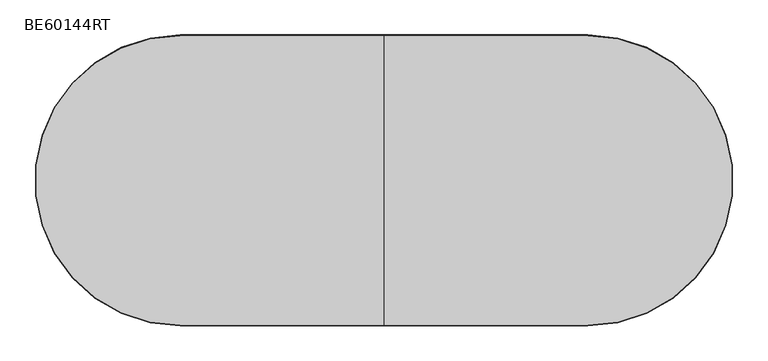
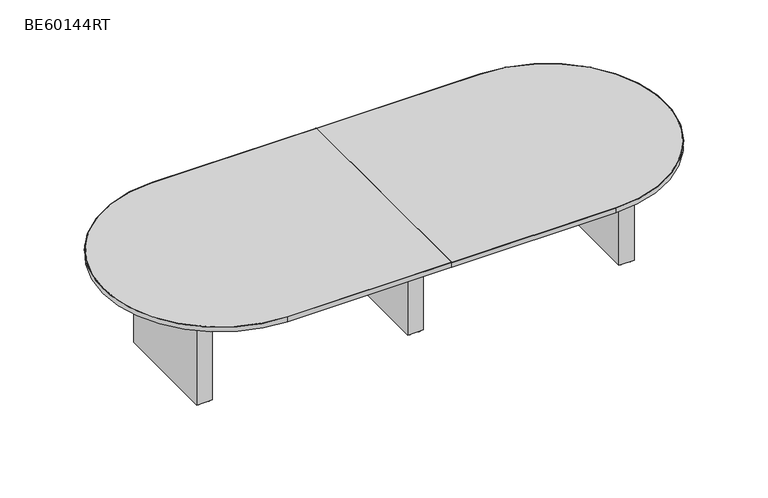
"""IFC4 building model written with IfcOpenShell, lengths in millimetres: furniture geometry, ERG-Beta-Conference_Table-Racetrack : BE60144RT."""

import ifcopenshell
import ifcopenshell.guid

model = None  # the IFC model being written
_history = None  # IfcOwnerHistory: only IFC2X3 demands one
_inside = {}  # id of a spatial element -> (the spatial element, [elements in it])
_under = {}  # id of a project, library or spatial element -> (it, [spatial elements below it])
_declared = {}  # id of a project -> (the project, [libraries it declares])
_typed = {}  # id of a type object -> (the type object, [elements of that type])
_made_of = {}  # id of a material, layer set ... -> (it, [elements and type objects made of it])


def new_model(schema):
    """Start an empty IFC model of exactly this schema.

    Asked for "IFC4X3", IfcOpenShell would pick the latest addendum, in which some entities
    have other attributes; the version numbers below select the first issue.
    IFC2X3 requires an IfcOwnerHistory on every rooted entity: one is made here for all.
    """
    global model, _history
    if schema == "IFC4X3":
        model = ifcopenshell.file(schema_version=(4, 3, 0, 0))
    else:
        model = ifcopenshell.file(schema=schema)
    _inside.clear()
    _under.clear()
    _declared.clear()
    _typed.clear()
    _made_of.clear()
    _history = None
    if model.schema == "IFC2X3":
        org = make("IfcOrganization", Name="unknown")
        user = make(
            "IfcPersonAndOrganization",
            ThePerson=make("IfcPerson", FamilyName="unknown"),
            TheOrganization=org,
        )
        app = make(
            "IfcApplication",
            ApplicationDeveloper=org,
            Version="unknown",
            ApplicationFullName="unknown",
            ApplicationIdentifier="unknown",
        )
        _history = make(
            "IfcOwnerHistory",
            OwningUser=user,
            OwningApplication=app,
            ChangeAction="ADDED",
            CreationDate=0,
        )
    return model


def make(cls, **values):
    """One entity of the class cls with the attributes given. An attribute that is None is left unset."""
    return model.create_entity(
        cls, **{name: value for name, value in values.items() if value is not None}
    )


def rooted(cls, **values):
    """An entity with a GlobalId (a new one), such as an element, a storey or a relation."""
    return make(cls, GlobalId=ifcopenshell.guid.new(), OwnerHistory=_history, **values)


def si_unit(unit_type, name, prefix=None):
    """IfcSIUnit, for example si_unit("LENGTHUNIT", "METRE", prefix="MILLI")."""
    return make("IfcSIUnit", UnitType=unit_type, Prefix=prefix, Name=name)


def assignment(units):
    """IfcUnitAssignment: the units of a project."""
    return None if units is None else make("IfcUnitAssignment", Units=units)


def point(xyz):
    """IfcCartesianPoint."""
    return None if xyz is None else make("IfcCartesianPoint", Coordinates=xyz)


def direction(xyz):
    """IfcDirection."""
    return None if xyz is None else make("IfcDirection", DirectionRatios=xyz)


def frame(location, z_axis=None, x_axis=None):
    """IfcAxis2Placement3D, a coordinate frame: its origin and axes. An axis left out is left unset."""
    return make(
        "IfcAxis2Placement3D",
        Location=point(location),
        Axis=direction(z_axis),
        RefDirection=direction(x_axis),
    )


def frame_2d(location, x_axis=None):
    """IfcAxis2Placement2D, a coordinate frame in the plane: its origin and x axis."""
    return make(
        "IfcAxis2Placement2D", Location=point(location), RefDirection=direction(x_axis)
    )


def origin():
    """The frame at (0, 0, 0) with its axes left unset."""
    return frame((0.0, 0.0, 0.0))


def origin_with_axes():
    """The frame at (0, 0, 0) with the z axis (0, 0, 1) and the x axis (1, 0, 0) written out."""
    return frame((0.0, 0.0, 0.0), z_axis=(0.0, 0.0, 1.0), x_axis=(1.0, 0.0, 0.0))


def place(relative_to, where):
    """IfcLocalPlacement: puts the frame where relative to a parent placement (None: the world)."""
    return make(
        "IfcLocalPlacement", PlacementRelTo=relative_to, RelativePlacement=where
    )


def context(
    kind, dimensions, precision=None, world=None, true_north=None, identifier=None
):
    """IfcGeometricRepresentationContext, for example the 3D "Model" context."""
    return make(
        "IfcGeometricRepresentationContext",
        ContextIdentifier=identifier,
        ContextType=kind,
        CoordinateSpaceDimension=dimensions,
        Precision=precision,
        WorldCoordinateSystem=world,
        TrueNorth=true_north,
    )


def project(units=None, contexts=None):
    """IfcProject with its units and contexts."""
    return rooted(
        "IfcProject",
        Name="project",
        RepresentationContexts=contexts,
        UnitsInContext=assignment(units),
    )


def spatial(cls, under=None, at=None, **own):
    """A site, building, storey or space (cls), placed at a placement, below another one or the project."""
    s = rooted(cls, ObjectPlacement=at, **own)
    if under is not None:
        _under.setdefault(under.id(), (under, []))[1].append(s)
    return s


def polyline(points):
    """IfcPolyline through the points."""
    return make("IfcPolyline", Points=[point(p) for p in points])


def circle_curve(where, radius):
    """IfcCircle in the frame where."""
    return make("IfcCircle", Position=where, Radius=radius)


def trimmed(basis, trim1, trim2, sense, master):
    """IfcTrimmedCurve: the piece of a basis curve between two trims."""
    return make(
        "IfcTrimmedCurve",
        BasisCurve=basis,
        Trim1=trim1,
        Trim2=trim2,
        SenseAgreement=sense,
        MasterRepresentation=master,
    )


def segment(curve, same_sense, transition):
    """IfcCompositeCurveSegment."""
    return make(
        "IfcCompositeCurveSegment",
        Transition=transition,
        SameSense=same_sense,
        ParentCurve=curve,
    )


def composite_curve(segments, self_intersect=None):
    """IfcCompositeCurve: segments joined end to end."""
    return make("IfcCompositeCurve", Segments=segments, SelfIntersect=self_intersect)


def outline(outer, holes=None, kind="AREA"):
    """IfcArbitraryClosedProfileDef: a profile drawn as a closed curve; with holes, ...WithVoids."""
    if holes is None:
        return make("IfcArbitraryClosedProfileDef", ProfileType=kind, OuterCurve=outer)
    return make(
        "IfcArbitraryProfileDefWithVoids",
        ProfileType=kind,
        OuterCurve=outer,
        InnerCurves=holes,
    )


def extrude(swept, where, along, depth):
    """IfcExtrudedAreaSolid: the profile swept, set in the frame where, extruded along a direction by depth."""
    return make(
        "IfcExtrudedAreaSolid",
        SweptArea=swept,
        Position=where,
        ExtrudedDirection=direction(along),
        Depth=depth,
    )


def shape(context_of_items, identifier, shape_type, items):
    """IfcShapeRepresentation: the items that make up one representation, for example the "Body"."""
    return make(
        "IfcShapeRepresentation",
        ContextOfItems=context_of_items,
        RepresentationIdentifier=identifier,
        RepresentationType=shape_type,
        Items=items,
    )


def source(mapping_origin, context_of_items, identifier, shape_type, items):
    """IfcRepresentationMap: a shape defined once, which mapped items show again and again."""
    return make(
        "IfcRepresentationMap",
        MappingOrigin=mapping_origin,
        MappedRepresentation=shape(context_of_items, identifier, shape_type, items),
    )


def transform(
    local_origin,
    x_axis=None,
    y_axis=None,
    z_axis=None,
    scale=None,
    scale2=None,
    scale3=None,
    uniform=True,
):
    """IfcCartesianTransformationOperator3D, or its non-uniform kind. x_axis, y_axis, z_axis: its Axis1, 2, 3."""
    if uniform:
        return make(
            "IfcCartesianTransformationOperator3D",
            Axis1=direction(x_axis),
            Axis2=direction(y_axis),
            LocalOrigin=point(local_origin),
            Scale=scale,
            Axis3=direction(z_axis),
        )
    return make(
        "IfcCartesianTransformationOperator3DnonUniform",
        Axis1=direction(x_axis),
        Axis2=direction(y_axis),
        LocalOrigin=point(local_origin),
        Scale=scale,
        Axis3=direction(z_axis),
        Scale2=scale2,
        Scale3=scale3,
    )


def mapped(mapping_source, mapping_target):
    """IfcMappedItem: shows the shape of a source again, moved by a transform."""
    return make(
        "IfcMappedItem", MappingSource=mapping_source, MappingTarget=mapping_target
    )


def made_of(thing, what):
    """Note that an element or type object is made of a material, layer set ...; save() writes the relation."""
    if what is not None:
        _made_of.setdefault(what.id(), (what, []))[1].append(thing)
    return thing


def element(
    cls,
    number,
    at=None,
    inside=None,
    cuts=None,
    type_object=None,
    material=None,
    context=None,
    identifier="Body",
    shape_type=None,
    held_by="IfcProductDefinitionShape",
    body=None,
    shapes=None,
    **own,
):
    """One element of the class cls, such as IfcWall. Its Tag is "e" and its number.

    at: its placement. inside: the storey or other place that contains it. cuts: it is an
    opening in that element (IfcRelVoidsElement). A single representation is given by context,
    identifier, shape_type and body (its items); several are given by shapes. held_by: the class
    of the entity that holds the representations. save() writes the other relations.
    """
    e = rooted(cls, Tag="e%d" % number, ObjectPlacement=at, **own)
    if body is not None:
        shapes = [shape(context, identifier, shape_type, body)]
    if shapes is not None:
        e.Representation = make(held_by, Representations=shapes)
    if inside is not None:
        _inside.setdefault(inside.id(), (inside, []))[1].append(e)
    if cuts is not None:
        rooted(
            "IfcRelVoidsElement", RelatingBuildingElement=cuts, RelatedOpeningElement=e
        )
    if type_object is not None:
        _typed.setdefault(type_object.id(), (type_object, []))[1].append(e)
    return made_of(e, material)


def aggregate(whole, parts):
    """IfcRelAggregates: a whole, such as a stair, and the parts it consists of."""
    return rooted("IfcRelAggregates", RelatingObject=whole, RelatedObjects=parts)


def save(model, path):
    """Write the relations noted so far, then the file.

    IfcRelAggregates (storeys below a building ...), IfcRelContainedInSpatialStructure (elements
    in a storey), IfcRelDefinesByType, IfcRelAssociatesMaterial and IfcRelDeclares: one each for
    every whole, place, type object, material and project.
    """
    for whole, parts in _under.values():
        aggregate(whole, parts)
    for where, things in _inside.values():
        rooted(
            "IfcRelContainedInSpatialStructure",
            RelatedElements=things,
            RelatingStructure=where,
        )
    for kind, things in _typed.values():
        rooted("IfcRelDefinesByType", RelatedObjects=things, RelatingType=kind)
    for what, things in _made_of.values():
        rooted("IfcRelAssociatesMaterial", RelatedObjects=things, RelatingMaterial=what)
    for by, libraries in _declared.values():
        rooted("IfcRelDeclares", RelatingContext=by, RelatedDefinitions=libraries)
    model.write(path)


def be60144rt_28809bae(model_context):
    return source(origin(), model_context, "Body", "SweptSolid", [
        extrude(outline(composite_curve([segment(trimmed(circle_curve(frame_2d((511.175, 390.276527)), 9.525), [point((501.65, 390.276527))], [point((520.7, 390.276527))], False, "CARTESIAN"), True, "CONTINUOUS"), segment(trimmed(circle_curve(frame_2d((511.175, 390.276527)), 9.525), [point((520.7, 390.276527))], [point((501.65, 390.276527))], False, "CARTESIAN"), True, "CONTINUOUS")], self_intersect=False)), origin_with_axes(), (0.0, 0.0, 1.0), 9.525),
        extrude(outline(composite_curve([segment(trimmed(circle_curve(frame_2d((574.675, 390.276527)), 9.525), [point((565.15, 390.276527))], [point((584.2, 390.276527))], False, "CARTESIAN"), True, "CONTINUOUS"), segment(trimmed(circle_curve(frame_2d((574.675, 390.276527)), 9.525), [point((584.2, 390.276527))], [point((565.15, 390.276527))], False, "CARTESIAN"), True, "CONTINUOUS")], self_intersect=False)), origin_with_axes(), (0.0, 0.0, 1.0), 9.525),
        extrude(outline(composite_curve([segment(trimmed(circle_curve(frame_2d((511.175, -282.823473)), 9.525), [point((501.65, -282.823473))], [point((520.7, -282.823473))], False, "CARTESIAN"), True, "CONTINUOUS"), segment(trimmed(circle_curve(frame_2d((511.175, -282.823473)), 9.525), [point((520.7, -282.823473))], [point((501.65, -282.823473))], False, "CARTESIAN"), True, "CONTINUOUS")], self_intersect=False)), origin_with_axes(), (0.0, 0.0, 1.0), 9.525),
        extrude(outline(composite_curve([segment(trimmed(circle_curve(frame_2d((574.675, -282.823473)), 9.525), [point((565.15, -282.823473))], [point((584.2, -282.823473))], False, "CARTESIAN"), True, "CONTINUOUS"), segment(trimmed(circle_curve(frame_2d((574.675, -282.823473)), 9.525), [point((584.2, -282.823473))], [point((565.15, -282.823473))], False, "CARTESIAN"), True, "CONTINUOUS")], self_intersect=False)), origin_with_axes(), (0.0, 0.0, 1.0), 9.525),
        extrude(outline(polyline([(593.725, 409.326527), (593.725, -301.873473), (492.125, -301.873473), (492.125, 409.326527), (593.725, 409.326527)])), frame((0.0, 0.0, 9.525), z_axis=(0.0, 0.0, 1.0), x_axis=(1.0, 0.0, 0.0)), (0.0, 0.0, 1.0), 695.3249758),
        extrude(outline(composite_curve([segment(trimmed(circle_curve(frame_2d((1882.775, 390.276527)), 9.525), [point((1873.25, 390.276527))], [point((1892.3, 390.276527))], False, "CARTESIAN"), True, "CONTINUOUS"), segment(trimmed(circle_curve(frame_2d((1882.775, 390.276527)), 9.525), [point((1892.3, 390.276527))], [point((1873.25, 390.276527))], False, "CARTESIAN"), True, "CONTINUOUS")], self_intersect=False)), origin_with_axes(), (0.0, 0.0, 1.0), 9.525),
        extrude(outline(composite_curve([segment(trimmed(circle_curve(frame_2d((1946.275, 390.276527)), 9.525), [point((1936.75, 390.276527))], [point((1955.8, 390.276527))], False, "CARTESIAN"), True, "CONTINUOUS"), segment(trimmed(circle_curve(frame_2d((1946.275, 390.276527)), 9.525), [point((1955.8, 390.276527))], [point((1936.75, 390.276527))], False, "CARTESIAN"), True, "CONTINUOUS")], self_intersect=False)), origin_with_axes(), (0.0, 0.0, 1.0), 9.525),
        extrude(outline(composite_curve([segment(trimmed(circle_curve(frame_2d((1882.775, -282.823473)), 9.525), [point((1873.25, -282.823473))], [point((1892.3, -282.823473))], False, "CARTESIAN"), True, "CONTINUOUS"), segment(trimmed(circle_curve(frame_2d((1882.775, -282.823473)), 9.525), [point((1892.3, -282.823473))], [point((1873.25, -282.823473))], False, "CARTESIAN"), True, "CONTINUOUS")], self_intersect=False)), origin_with_axes(), (0.0, 0.0, 1.0), 9.525),
        extrude(outline(composite_curve([segment(trimmed(circle_curve(frame_2d((1946.275, -282.823473)), 9.525), [point((1936.75, -282.823473))], [point((1955.8, -282.823473))], False, "CARTESIAN"), True, "CONTINUOUS"), segment(trimmed(circle_curve(frame_2d((1946.275, -282.823473)), 9.525), [point((1955.8, -282.823473))], [point((1936.75, -282.823473))], False, "CARTESIAN"), True, "CONTINUOUS")], self_intersect=False)), origin_with_axes(), (0.0, 0.0, 1.0), 9.525),
        extrude(outline(polyline([(1965.325, 409.326527), (1965.325, -301.873473), (1863.725, -301.873473), (1863.725, 409.326527), (1965.325, 409.326527)])), frame((0.0, 0.0, 9.525), z_axis=(0.0, 0.0, 1.0), x_axis=(1.0, 0.0, 0.0)), (0.0, 0.0, 1.0), 695.3249758),
        extrude(outline(composite_curve([segment(trimmed(circle_curve(frame_2d((-860.425, 390.276527)), 9.525), [point((-869.95, 390.276527))], [point((-850.9, 390.276527))], False, "CARTESIAN"), True, "CONTINUOUS"), segment(trimmed(circle_curve(frame_2d((-860.425, 390.276527)), 9.525), [point((-850.9, 390.276527))], [point((-869.95, 390.276527))], False, "CARTESIAN"), True, "CONTINUOUS")], self_intersect=False)), origin_with_axes(), (0.0, 0.0, 1.0), 9.525),
        extrude(outline(composite_curve([segment(trimmed(circle_curve(frame_2d((-796.925, 390.276527)), 9.525), [point((-806.45, 390.276527))], [point((-787.4, 390.276527))], False, "CARTESIAN"), True, "CONTINUOUS"), segment(trimmed(circle_curve(frame_2d((-796.925, 390.276527)), 9.525), [point((-787.4, 390.276527))], [point((-806.45, 390.276527))], False, "CARTESIAN"), True, "CONTINUOUS")], self_intersect=False)), origin_with_axes(), (0.0, 0.0, 1.0), 9.525),
        extrude(outline(composite_curve([segment(trimmed(circle_curve(frame_2d((-860.425, -282.823473)), 9.525), [point((-869.95, -282.823473))], [point((-850.9, -282.823473))], False, "CARTESIAN"), True, "CONTINUOUS"), segment(trimmed(circle_curve(frame_2d((-860.425, -282.823473)), 9.525), [point((-850.9, -282.823473))], [point((-869.95, -282.823473))], False, "CARTESIAN"), True, "CONTINUOUS")], self_intersect=False)), origin_with_axes(), (0.0, 0.0, 1.0), 9.525),
        extrude(outline(composite_curve([segment(trimmed(circle_curve(frame_2d((-796.925, -282.823473)), 9.525), [point((-806.45, -282.823473))], [point((-787.4, -282.823473))], False, "CARTESIAN"), True, "CONTINUOUS"), segment(trimmed(circle_curve(frame_2d((-796.925, -282.823473)), 9.525), [point((-787.4, -282.823473))], [point((-806.45, -282.823473))], False, "CARTESIAN"), True, "CONTINUOUS")], self_intersect=False)), origin_with_axes(), (0.0, 0.0, 1.0), 9.525),
        extrude(outline(polyline([(-777.875, 409.326527), (-777.875, -301.873473), (-879.475, -301.873473), (-879.475, 409.326527), (-777.875, 409.326527)])), frame((0.0, 0.0, 9.525), z_axis=(0.0, 0.0, 1.0), x_axis=(1.0, 0.0, 0.0)), (0.0, 0.0, 1.0), 695.3249758),
        extrude(outline(composite_curve([segment(trimmed(circle_curve(frame_2d((1609.725, 53.726527)), 758.825), [point((1609.725, 812.551527))], [point((1609.725, -705.098473))], False, "CARTESIAN"), True, "CONTINUOUS"), segment(polyline([(1609.725, -705.098473), (544.5125, -705.098473), (544.5125, 812.551527), (1609.725, 812.551527)]), True, "CONTINUOUS")], self_intersect=False)), frame((0.0, 0.0, 704.85), z_axis=(0.0, 0.0, 1.0), x_axis=(1.0, 0.0, 0.0)), (0.0, 0.0, 1.0), 31.75),
        extrude(outline(composite_curve([segment(trimmed(circle_curve(frame_2d((-523.875, 53.726527)), 758.825), [point((-523.875, -705.098473))], [point((-523.875, 812.551527))], False, "CARTESIAN"), True, "CONTINUOUS"), segment(polyline([(-523.875, 812.551527), (541.3375, 812.551527), (541.3375, -705.098473), (-523.875, -705.098473)]), True, "CONTINUOUS")], self_intersect=False)), frame((0.0, 0.0, 704.85), z_axis=(0.0, 0.0, 1.0), x_axis=(1.0, 0.0, 0.0)), (0.0, 0.0, 1.0), 31.75),
        extrude(outline(composite_curve([segment(trimmed(circle_curve(frame_2d((1609.725, 53.726527)), 758.825), [point((1609.725, -705.098473))], [point((1609.725, 812.551527))], True, "CARTESIAN"), True, "CONTINUOUS"), segment(polyline([(1609.725, 812.551527), (544.5125, 812.551527), (544.5125, 815.726527), (1609.725, 815.726527)]), True, "CONTINUOUS"), segment(trimmed(circle_curve(frame_2d((1609.725, 53.726527)), 762.0), [point((1609.725, 815.726527))], [point((1609.725, -708.273473))], False, "CARTESIAN"), True, "CONTINUOUS"), segment(polyline([(1609.725, -708.273473), (544.5125, -708.273473), (544.5125, -705.098473), (1609.725, -705.098473)]), True, "CONTINUOUS")], self_intersect=False)), frame((0.0, 0.0, 704.85), z_axis=(0.0, 0.0, 1.0), x_axis=(1.0, 0.0, 0.0)), (0.0, 0.0, 1.0), 31.75),
        extrude(outline(composite_curve([segment(trimmed(circle_curve(frame_2d((-523.875, 53.726527)), 762.0), [point((-523.875, -708.273473))], [point((-523.875, 815.726527))], False, "CARTESIAN"), True, "CONTINUOUS"), segment(polyline([(-523.875, 815.726527), (541.3375, 815.726527), (541.3375, 812.551527), (-523.875, 812.551527)]), True, "CONTINUOUS"), segment(trimmed(circle_curve(frame_2d((-523.875, 53.726527)), 758.825), [point((-523.875, 812.551527))], [point((-523.875, -705.098473))], True, "CARTESIAN"), True, "CONTINUOUS"), segment(polyline([(-523.875, -705.098473), (541.3375, -705.098473), (541.3375, -708.273473), (-523.875, -708.273473)]), True, "CONTINUOUS")], self_intersect=False)), frame((0.0, 0.0, 704.85), z_axis=(0.0, 0.0, 1.0), x_axis=(1.0, 0.0, 0.0)), (0.0, 0.0, 1.0), 31.75),
    ])


if __name__ == "__main__":
    model = new_model("IFC4")
    model_context = context("Model", 3, world=origin())
    ifc_project = project(units=[si_unit("LENGTHUNIT", "METRE", prefix="MILLI")], contexts=[model_context])
    site = spatial("IfcSite", under=ifc_project)
    building = spatial("IfcBuilding", under=site)
    placement = place(None, origin())
    be60144rt_shape = be60144rt_28809bae(model_context)
    element("IfcFurniture", 1, ObjectType="ERG-Beta-Conference_Table-Racetrack : BE60144RT", at=placement, inside=building, context=model_context, shape_type="MappedRepresentation", body=[
        mapped(be60144rt_shape, transform((0.0, 0.0, 0.0), x_axis=(1.0, 0.0, 0.0), y_axis=(0.0, 1.0, 0.0), z_axis=(0.0, 0.0, 1.0))),
    ])
    save(model, "model.ifc")
